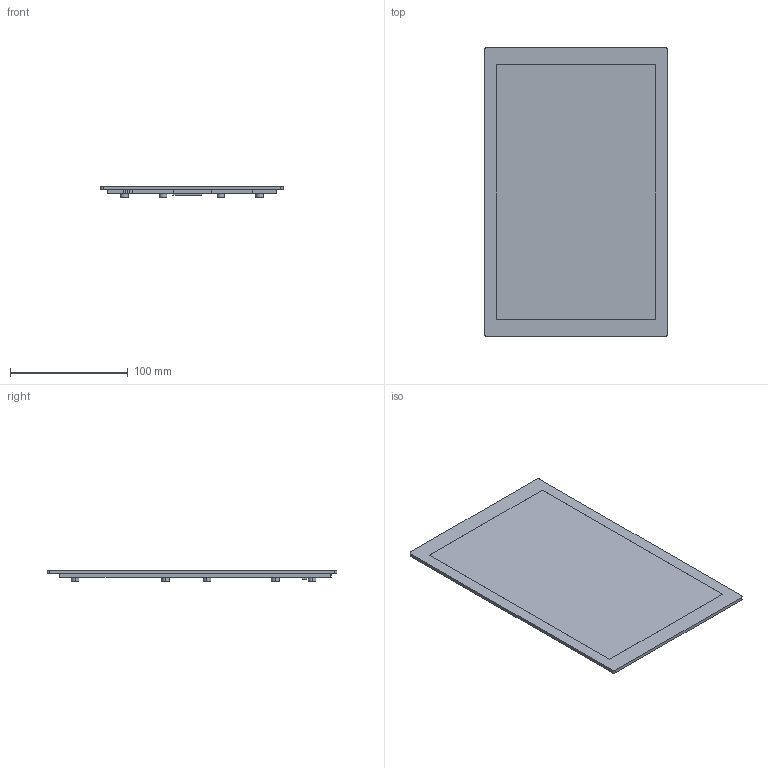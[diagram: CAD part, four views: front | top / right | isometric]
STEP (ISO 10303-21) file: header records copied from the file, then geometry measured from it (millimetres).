
FILE_DESCRIPTION((''),'2;1');
FILE_NAME('CZ101AU364001A_FHD','2024-03-13T14:21:25',('admin'),(''),'CREO PARAMETRIC BY PTC INC, 2023072','CREO PARAMETRIC BY PTC INC, 2023072','');
FILE_SCHEMA(('CONFIG_CONTROL_DESIGN','SHAPE_APPEARANCE_LAYERS_GROUPS'));
Length unit declared in the file: millimetre
Products named in the file (1): CZ101AU364001A_FHD
Bounding box: 155 x 246.16 x 10.17 mm (x, y, z)
Volume: 218874.7 mm3; surface area: 155121.1 mm2
Topology: 13 solids, 13 shells, 128 faces, 300 edges, 200 vertices
Faces by surface type: plane 72, cylinder 56
Entity records: 4880 total; most frequent: COLOUR_RGB 1121, DIRECTION 668, CARTESIAN_POINT 628, ORIENTED_EDGE 600, EDGE_CURVE 300, AXIS2_PLACEMENT_3D 240, VERTEX_POINT 200, VECTOR 188
